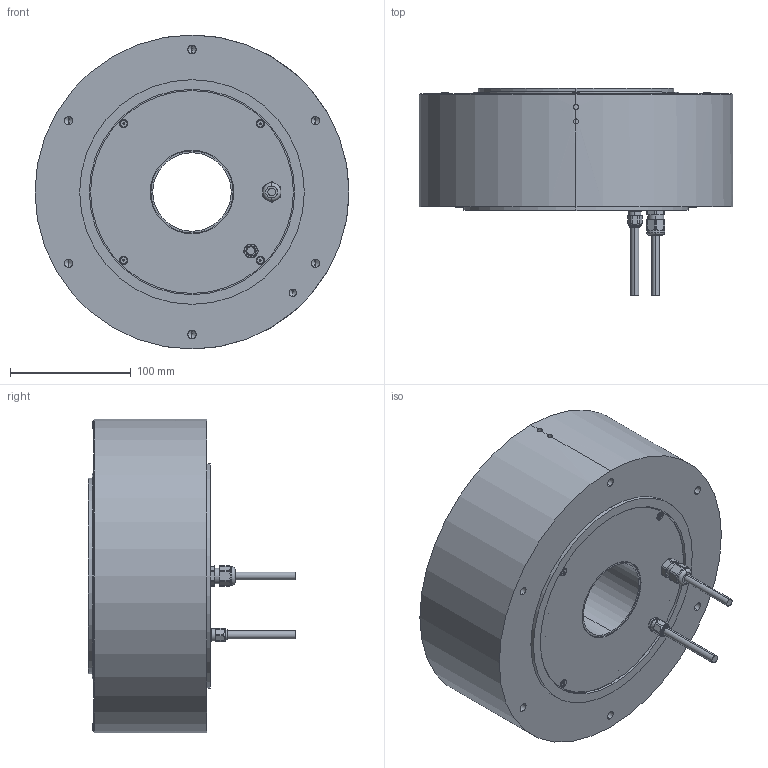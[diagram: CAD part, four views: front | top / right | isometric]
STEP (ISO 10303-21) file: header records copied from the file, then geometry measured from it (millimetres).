
FILE_DESCRIPTION (( 'STEP AP214' ), '1' );
FILE_NAME ('ND250-95-LSB-UC.step', '2025-03-11T01:08:44', ( '' ), ( '' ), 'SwSTEP 2.0', 'SolidWorks 2024', '' );
FILE_SCHEMA (( 'AUTOMOTIVE_DESIGN' ));
Length unit declared in the file: millimetre
Products named in the file (1): ND250-95-LSB-UC
Bounding box: 260 x 171.5 x 260 mm (x, y, z)
Volume: 1681133.3 mm3; surface area: 412110.7 mm2
Topology: 17 solids, 17 shells, 683 faces, 1744 edges, 1084 vertices
Faces by surface type: cylinder 389, cone 130, plane 108, torus 36, sphere 20
Entity records: 22234 total; most frequent: CARTESIAN_POINT 5630, DIRECTION 3547, ORIENTED_EDGE 3360, EDGE_CURVE 1680, AXIS2_PLACEMENT_3D 1459, VERTEX_POINT 1084, EDGE_LOOP 782, CIRCLE 775
